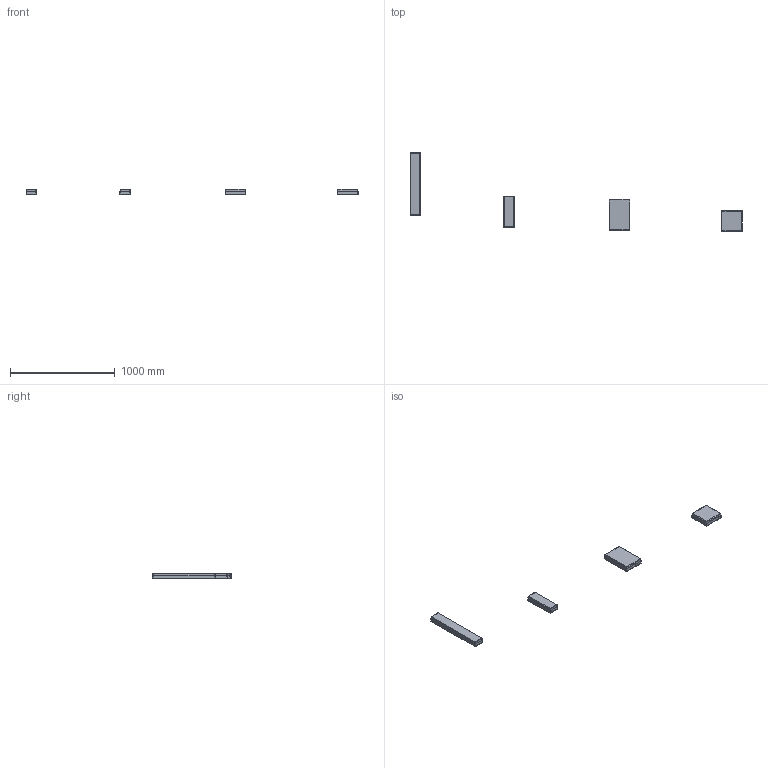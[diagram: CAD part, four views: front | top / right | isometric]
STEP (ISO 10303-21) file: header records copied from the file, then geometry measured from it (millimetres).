
FILE_DESCRIPTION(/* description */ (''),/* implementation_level */ '2;1');
FILE_NAME(/* name */ 'MOSSwall® 2023 - 3D Matris',/* time_stamp */ '2023-07-24T17:46:55+02:00',/* author */ (''),/* organization */ (''),/* preprocessor_version */ 'ST-DEVELOPER v16.5',/* originating_system */ 'Rhino 7.20',/* authorisation */ '');
FILE_SCHEMA (('CONFIG_CONTROL_DESIGN'));
Length unit declared in the file: millimetre
Products named in the file (1): Document
Bounding box: 3162.06 x 750.23 x 51.63 mm (x, y, z)
Volume: 9259594.4 mm3; surface area: 1151217.8 mm2
Topology: 8 solids, 8 shells, 164 faces, 320 edges, 176 vertices
Faces by surface type: bspline 80, plane 68, cylinder 16
Entity records: 4178 total; most frequent: CARTESIAN_POINT 1960, ORIENTED_EDGE 640, EDGE_CURVE 320, B_SPLINE_CURVE_WITH_KNOTS 224, VERTEX_POINT 176, EDGE_LOOP 168, ADVANCED_FACE 164, FACE_OUTER_BOUND 164
